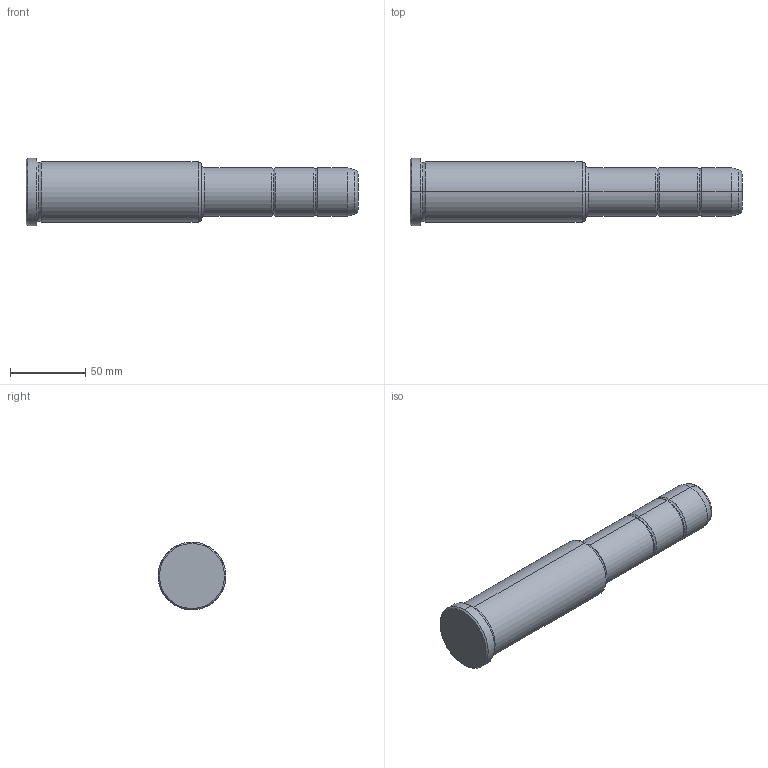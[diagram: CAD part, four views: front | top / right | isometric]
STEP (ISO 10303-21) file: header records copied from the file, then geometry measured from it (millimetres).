
FILE_DESCRIPTION(('CATIA V5 STEP Exchange'),'2;1');
FILE_NAME('C:\Users\Utente\Desktop\IO LAVORO\3D X SITO CF\X SITO\PLASTICA\351\351-32X116X220.stp','2021-09-15T11:39:40+00:00',('none'),('none'),'CATIA Version 5 Release 20 GA (IN-10)','CATIA V5 STEP AP203','none');
FILE_SCHEMA(('CONFIG_CONTROL_DESIGN'));
Length unit declared in the file: millimetre
Products named in the file (1): 351-32X116X220
Bounding box: 220 x 45 x 45 mm (x, y, z)
Volume: 230543 mm3; surface area: 27893.7 mm2
Topology: 1 solids, 1 shells, 36 faces, 102 edges, 70 vertices
Faces by surface type: torus 16, cylinder 10, cone 6, plane 4
Entity records: 1292 total; most frequent: CARTESIAN_POINT 321, ORIENTED_EDGE 204, DIRECTION 166, AXIS2_PLACEMENT_3D 115, EDGE_CURVE 102, CIRCLE 78, VERTEX_POINT 70, EDGE_LOOP 38
